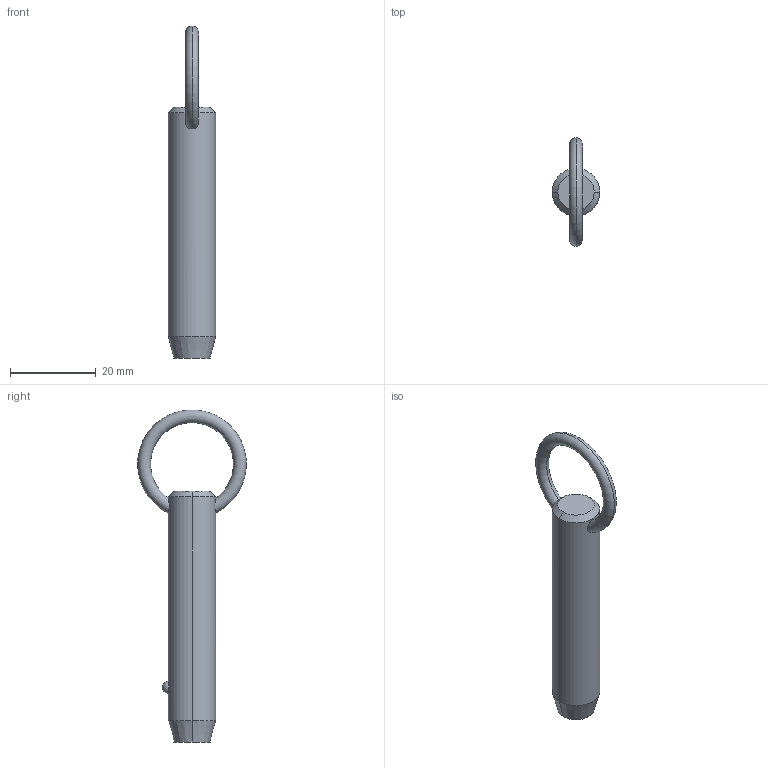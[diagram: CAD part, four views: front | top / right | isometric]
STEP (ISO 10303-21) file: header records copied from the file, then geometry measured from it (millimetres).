
FILE_DESCRIPTION (( 'STEP AP203' ), '1' );
FILE_NAME ('P1250.050-150.step', '2019-07-29T20:30:06', ( '' ), ( '' ), 'SwSTEP 2.0', 'SolidWorks 2017', '' );
FILE_SCHEMA (( 'CONFIG_CONTROL_DESIGN' ));
Length unit declared in the file: millimetre
Products named in the file (1): P1250.050-150
Bounding box: 11.1 x 25.32 x 77.65 mm (x, y, z)
Volume: 5963.1 mm3; surface area: 2699.6 mm2
Topology: 1 solids, 1 shells, 12 faces, 28 edges, 17 vertices
Faces by surface type: cone 4, torus 2, sphere 2, cylinder 2, plane 2
Entity records: 523 total; most frequent: CARTESIAN_POINT 190, DIRECTION 56, ORIENTED_EDGE 48, AXIS2_PLACEMENT_3D 25, EDGE_CURVE 24, VERTEX_POINT 15, EDGE_LOOP 15, CIRCLE 12
